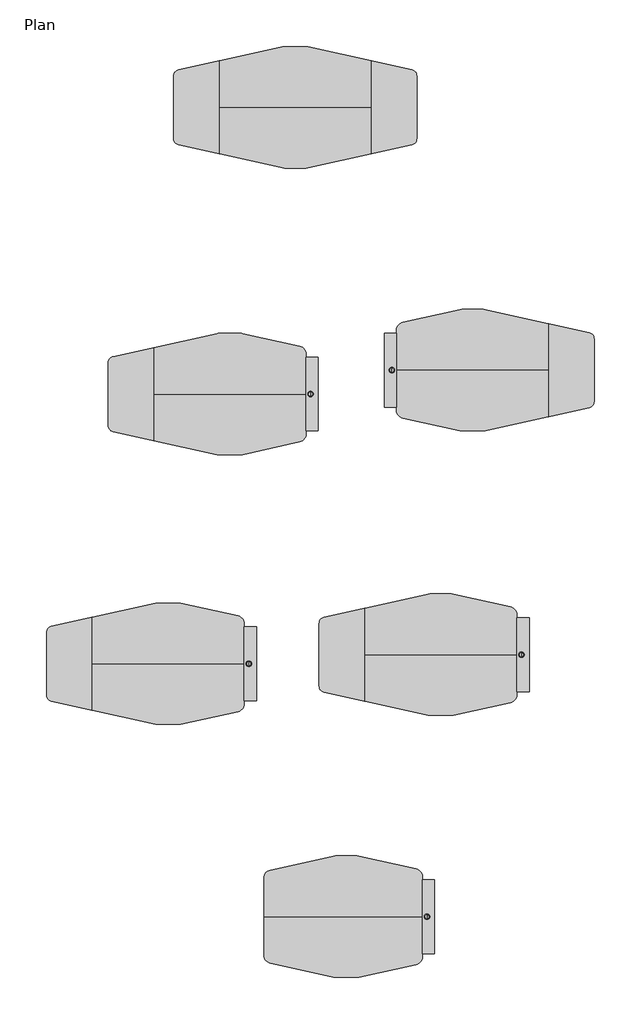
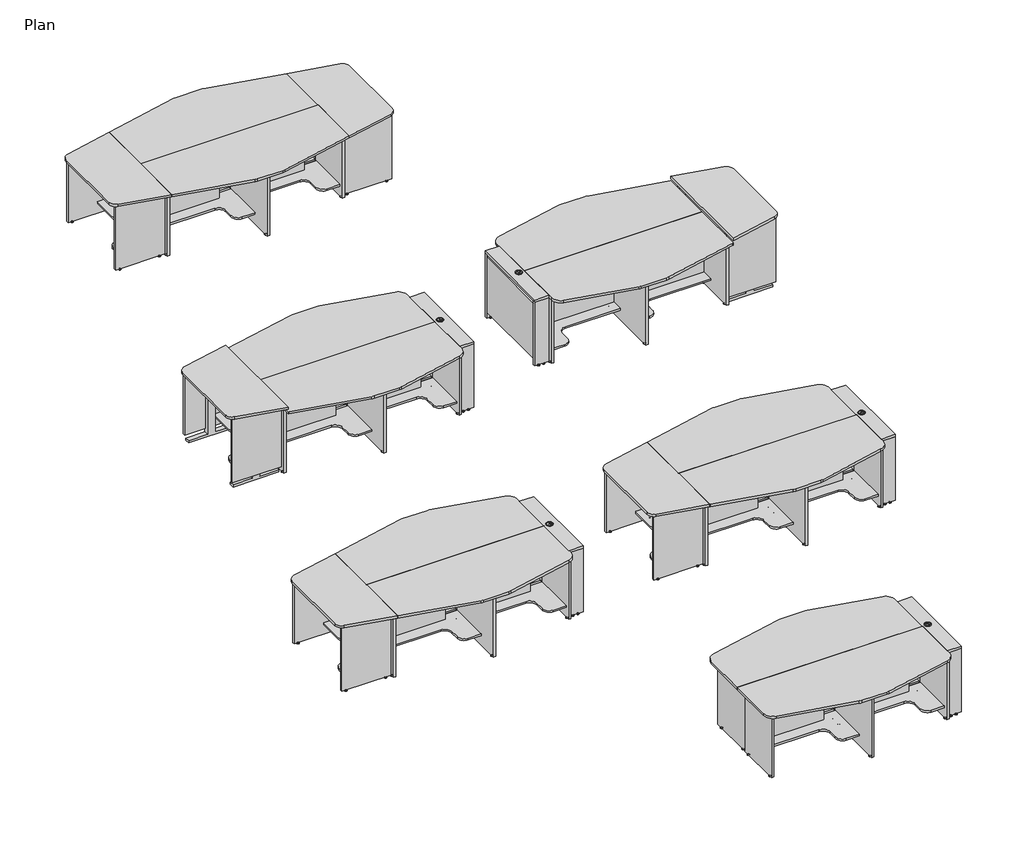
# One storey, incomplete: 6 furniture elements.
"""IFC4 building model written with IfcOpenShell, lengths in millimetres."""

from ifc_helpers import new_model, si_unit, origin, place, context, project, spatial, transform, mapped, element, save
from components import furniture_4_person_w_wire_compartment_36183c5d, furniture_4_person_w_wire_compartment_91efd73a, furniture_5_person_w_wire_compartment_perforated_70c40dab, furniture_5_person_w_wire_compartment_perforated_3ae8978b, furniture_5_person_w_wire_compartment_perforated_82e77ec8, furniture_5_person_w_wire_compartment_ada_perforated_2b3411b6, furniture_5_person_w_wire_compartment_ada_perforated_266a7b52, furniture_6_person_6b015cb4, furniture_6_person_dfd8cc7e, furniture_6_person_ace36e72

model = new_model("IFC4")

# Units and contexts
model_context = context("Model", 3, world=origin())
ifc_project = project(units=[si_unit("LENGTHUNIT", "METRE", prefix="MILLI")], contexts=[model_context])

# Site, building, storey
site = spatial("IfcSite", under=ifc_project)
building = spatial("IfcBuilding", under=site)
storey = spatial("IfcBuildingStorey", under=building, Name="Plan", Elevation=0.0)

# Furniture
placement = place(None, origin())
furniture_4_person_w_wire_compartment_shape = furniture_4_person_w_wire_compartment_36183c5d(model_context)
furniture_4_person_w_wire_compartment_2_shape = furniture_4_person_w_wire_compartment_91efd73a(model_context)
element("IfcFurniture", 1, ObjectType="Nova Solutions - Collaboration Table - Boat_4-6 person : 4 person w/ Wire Compartment", at=placement, inside=storey, context=model_context, shape_type="MappedRepresentation", body=[
    mapped(furniture_4_person_w_wire_compartment_shape, transform((16402.4271026, -7122.2423699, 0.0), x_axis=(1.0, 0.0, 0.0), y_axis=(0.0, 1.0, 0.0), z_axis=(0.0, 0.0, 1.0))),
    mapped(furniture_4_person_w_wire_compartment_2_shape, transform((16402.4271026, -7122.2423699, 0.0), x_axis=(1.0, 0.0, 0.0), y_axis=(0.0, 1.0, 0.0), z_axis=(0.0, 0.0, 1.0))),
])
furniture_5_person_w_wire_compartment_perforated_shape = furniture_5_person_w_wire_compartment_perforated_70c40dab(model_context)
furniture_5_person_w_wire_compartment_perforated_2_shape = furniture_5_person_w_wire_compartment_perforated_3ae8978b(model_context)
furniture_5_person_w_wire_compartment_perforated_3_shape = furniture_5_person_w_wire_compartment_perforated_82e77ec8(model_context)
element("IfcFurniture", 2, ObjectType="Nova Solutions - Collaboration Table - Boat_4-6 person : 5 person w/ Wire Compartment", at=placement, inside=storey, context=model_context, shape_type="MappedRepresentation", body=[
    mapped(furniture_5_person_w_wire_compartment_perforated_shape, transform((17582.4149339, -3852.3509538, 0.0), x_axis=(1.0, 0.0, 0.0), y_axis=(0.0, 1.0, 0.0), z_axis=(0.0, 0.0, 1.0))),
    mapped(furniture_5_person_w_wire_compartment_perforated_2_shape, transform((17582.4149339, -3852.3509538, 0.0), x_axis=(1.0, 0.0, 0.0), y_axis=(0.0, 1.0, 0.0), z_axis=(0.0, 0.0, 1.0))),
    mapped(furniture_5_person_w_wire_compartment_perforated_3_shape, transform((17582.4149339, -3852.3509538, 0.0), x_axis=(1.0, 0.0, 0.0), y_axis=(0.0, 1.0, 0.0), z_axis=(0.0, 0.0, 1.0))),
])
furniture_5_person_w_wire_compartment_ada_perforated_shape = furniture_5_person_w_wire_compartment_ada_perforated_2b3411b6(model_context)
furniture_5_person_w_wire_compartment_ada_perforated_2_shape = furniture_5_person_w_wire_compartment_ada_perforated_266a7b52(model_context)
element("IfcFurniture", 3, ObjectType="Nova Solutions - Collaboration Table - Boat_4-6 person : 5 person w/ Wire Compartment - ADA", at=placement, inside=storey, context=model_context, shape_type="MappedRepresentation", body=[
    mapped(furniture_5_person_w_wire_compartment_ada_perforated_shape, transform((17926.2169273, -301.0884692, 0.0), x_axis=(-1.0, 0.0, 0.0), y_axis=(0.0, -1.0, 0.0), z_axis=(0.0, 0.0, 1.0))),
    mapped(furniture_5_person_w_wire_compartment_ada_perforated_2_shape, transform((17926.2169273, -301.0884692, 0.0), x_axis=(-1.0, 0.0, 0.0), y_axis=(0.0, -1.0, 0.0), z_axis=(0.0, 0.0, 1.0))),
])
element("IfcFurniture", 4, ObjectType="Nova Solutions - Collaboration Table - Boat_4-6 person : 5 person w/ Wire Compartment - ADA - Perforated", at=placement, inside=storey, context=model_context, shape_type="MappedRepresentation", body=[
    mapped(furniture_5_person_w_wire_compartment_ada_perforated_shape, transform((14947.6063524, -599.1941313, 0.0), x_axis=(1.0, 0.0, 0.0), y_axis=(0.0, 1.0, 0.0), z_axis=(0.0, 0.0, 1.0))),
    mapped(furniture_5_person_w_wire_compartment_ada_perforated_2_shape, transform((14947.6063524, -599.1941313, 0.0), x_axis=(1.0, 0.0, 0.0), y_axis=(0.0, 1.0, 0.0), z_axis=(0.0, 0.0, 1.0))),
])
element("IfcFurniture", 5, ObjectType="Nova Solutions - Collaboration Table - Boat_4-6 person : 5 person w/ Wire Compartment - Perforated", at=placement, inside=storey, context=model_context, shape_type="MappedRepresentation", body=[
    mapped(furniture_5_person_w_wire_compartment_perforated_shape, transform((14176.3869027, -3965.1576251, 0.0), x_axis=(1.0, 0.0, 0.0), y_axis=(0.0, 1.0, 0.0), z_axis=(0.0, 0.0, 1.0))),
    mapped(furniture_5_person_w_wire_compartment_perforated_2_shape, transform((14176.3869027, -3965.1576251, 0.0), x_axis=(1.0, 0.0, 0.0), y_axis=(0.0, 1.0, 0.0), z_axis=(0.0, 0.0, 1.0))),
    mapped(furniture_5_person_w_wire_compartment_perforated_3_shape, transform((14176.3869027, -3965.1576251, 0.0), x_axis=(1.0, 0.0, 0.0), y_axis=(0.0, 1.0, 0.0), z_axis=(0.0, 0.0, 1.0))),
])
furniture_6_person_shape = furniture_6_person_6b015cb4(model_context)
furniture_6_person_2_shape = furniture_6_person_dfd8cc7e(model_context)
furniture_6_person_3_shape = furniture_6_person_ace36e72(model_context)
element("IfcFurniture", 6, ObjectType="Nova Solutions - Collaboration Table - Boat_4-6 person : 6 person", at=placement, inside=storey, context=model_context, shape_type="MappedRepresentation", body=[
    mapped(furniture_6_person_shape, transform((15765.6413997, 2980.3530551, 0.0), x_axis=(1.0, 0.0, 0.0), y_axis=(0.0, 1.0, 0.0), z_axis=(0.0, 0.0, 1.0))),
    mapped(furniture_6_person_2_shape, transform((15765.6413997, 2980.3530551, 0.0), x_axis=(1.0, 0.0, 0.0), y_axis=(0.0, 1.0, 0.0), z_axis=(0.0, 0.0, 1.0))),
    mapped(furniture_6_person_3_shape, transform((15765.6413997, 2980.3530551, 0.0), x_axis=(1.0, 0.0, 0.0), y_axis=(0.0, 1.0, 0.0), z_axis=(0.0, 0.0, 1.0))),
])

save(model, "model.ifc")
